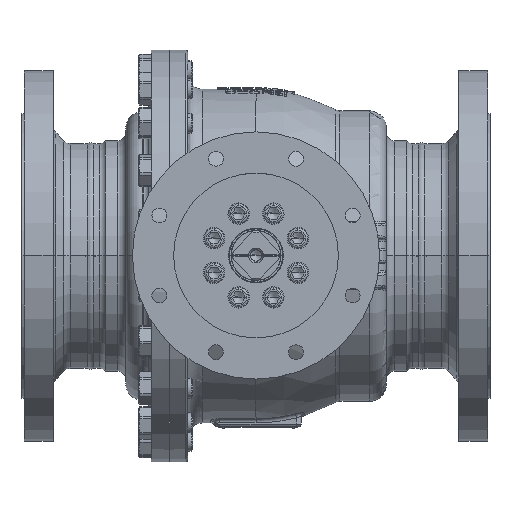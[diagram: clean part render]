
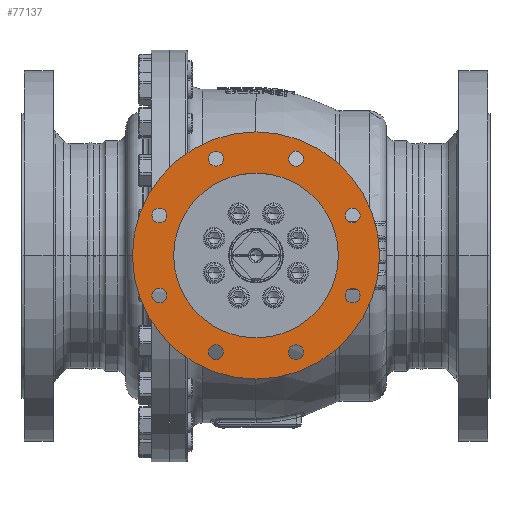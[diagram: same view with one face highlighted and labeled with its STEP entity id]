
A CAD part, top view. The second image highlights one B-rep face of the part: STEP entity #77137.
In plain terms, the highlighted planar face has unit normal (0, 0, 1).
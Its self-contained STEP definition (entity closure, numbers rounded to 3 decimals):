
#8684=CARTESIAN_POINT('',(0.,0.,349.));
#8685=DIRECTION('',(0.,0.,1.));
#8686=DIRECTION('',(1.,0.,0.));
#8687=AXIS2_PLACEMENT_3D('',#8684,#8685,#8686);
#8689=CARTESIAN_POINT('',(0.,0.,349.));
#8690=DIRECTION('',(0.,0.,-1.));
#8691=DIRECTION('',(1.,0.,0.));
#8692=AXIS2_PLACEMENT_3D('',#8689,#8690,#8691);
#8694=CARTESIAN_POINT('',(-117.333,48.601,349.));
#8695=DIRECTION('',(0.,0.,-1.));
#8696=DIRECTION('',(-1.,0.,0.));
#8697=AXIS2_PLACEMENT_3D('',#8694,#8695,#8696);
#8699=CARTESIAN_POINT('',(-117.333,48.601,349.));
#8700=DIRECTION('',(0.,0.,-1.));
#8701=DIRECTION('',(1.,0.,0.));
#8702=AXIS2_PLACEMENT_3D('',#8699,#8700,#8701);
#8704=CARTESIAN_POINT('',(-48.601,117.333,349.));
#8705=DIRECTION('',(0.,0.,-1.));
#8706=DIRECTION('',(-0.707,0.707,0.));
#8707=AXIS2_PLACEMENT_3D('',#8704,#8705,#8706);
#8709=CARTESIAN_POINT('',(-48.601,117.333,349.));
#8710=DIRECTION('',(0.,0.,-1.));
#8711=DIRECTION('',(0.707,-0.707,0.));
#8712=AXIS2_PLACEMENT_3D('',#8709,#8710,#8711);
#8714=CARTESIAN_POINT('',(48.601,117.333,349.));
#8715=DIRECTION('',(0.,0.,-1.));
#8716=DIRECTION('',(0.,1.,0.));
#8717=AXIS2_PLACEMENT_3D('',#8714,#8715,#8716);
#8719=CARTESIAN_POINT('',(48.601,117.333,349.));
#8720=DIRECTION('',(0.,0.,-1.));
#8721=DIRECTION('',(0.,-1.,0.));
#8722=AXIS2_PLACEMENT_3D('',#8719,#8720,#8721);
#8724=CARTESIAN_POINT('',(117.333,48.601,349.));
#8725=DIRECTION('',(0.,0.,-1.));
#8726=DIRECTION('',(0.707,0.707,0.));
#8727=AXIS2_PLACEMENT_3D('',#8724,#8725,#8726);
#8729=CARTESIAN_POINT('',(117.333,48.601,349.));
#8730=DIRECTION('',(0.,0.,-1.));
#8731=DIRECTION('',(-0.707,-0.707,0.));
#8732=AXIS2_PLACEMENT_3D('',#8729,#8730,#8731);
#8734=CARTESIAN_POINT('',(117.333,-48.601,349.));
#8735=DIRECTION('',(0.,0.,-1.));
#8736=DIRECTION('',(1.,0.,0.));
#8737=AXIS2_PLACEMENT_3D('',#8734,#8735,#8736);
#8739=CARTESIAN_POINT('',(117.333,-48.601,349.));
#8740=DIRECTION('',(0.,0.,-1.));
#8741=DIRECTION('',(-1.,0.,0.));
#8742=AXIS2_PLACEMENT_3D('',#8739,#8740,#8741);
#8744=CARTESIAN_POINT('',(48.601,-117.333,349.));
#8745=DIRECTION('',(0.,0.,-1.));
#8746=DIRECTION('',(0.707,-0.707,0.));
#8747=AXIS2_PLACEMENT_3D('',#8744,#8745,#8746);
#8749=CARTESIAN_POINT('',(48.601,-117.333,349.));
#8750=DIRECTION('',(0.,0.,-1.));
#8751=DIRECTION('',(-0.707,0.707,0.));
#8752=AXIS2_PLACEMENT_3D('',#8749,#8750,#8751);
#8754=CARTESIAN_POINT('',(-48.601,-117.333,349.));
#8755=DIRECTION('',(0.,0.,-1.));
#8756=DIRECTION('',(0.,-1.,0.));
#8757=AXIS2_PLACEMENT_3D('',#8754,#8755,#8756);
#8759=CARTESIAN_POINT('',(-48.601,-117.333,349.));
#8760=DIRECTION('',(0.,0.,-1.));
#8761=DIRECTION('',(0.,1.,0.));
#8762=AXIS2_PLACEMENT_3D('',#8759,#8760,#8761);
#8764=CARTESIAN_POINT('',(-117.333,-48.601,349.));
#8765=DIRECTION('',(0.,0.,-1.));
#8766=DIRECTION('',(-0.707,-0.707,0.));
#8767=AXIS2_PLACEMENT_3D('',#8764,#8765,#8766);
#8769=CARTESIAN_POINT('',(-117.333,-48.601,349.));
#8770=DIRECTION('',(0.,0.,-1.));
#8771=DIRECTION('',(0.707,0.707,0.));
#8772=AXIS2_PLACEMENT_3D('',#8769,#8770,#8771);
#8778=CARTESIAN_POINT('',(0.,0.,349.));
#8779=DIRECTION('',(0.,0.,-1.));
#8780=DIRECTION('',(1.,0.,0.));
#8781=AXIS2_PLACEMENT_3D('',#8778,#8779,#8780);
#8787=CARTESIAN_POINT('',(0.,0.,349.));
#8788=DIRECTION('',(0.,0.,1.));
#8789=DIRECTION('',(1.,0.,0.));
#8790=AXIS2_PLACEMENT_3D('',#8787,#8788,#8789);
#61497=CARTESIAN_POINT('',(100.,0.,349.));
#61499=VERTEX_POINT('',#61497);
#61501=CARTESIAN_POINT('',(-100.,0.,349.));
#61503=VERTEX_POINT('',#61501);
#61505=CARTESIAN_POINT('',(150.,0.,349.));
#61506=CARTESIAN_POINT('',(-150.,0.,349.));
#61507=VERTEX_POINT('',#61505);
#61508=VERTEX_POINT('',#61506);
#61641=CARTESIAN_POINT('',(-126.333,48.601,349.));
#61642=CARTESIAN_POINT('',(-108.333,48.601,349.));
#61643=VERTEX_POINT('',#61641);
#61644=VERTEX_POINT('',#61642);
#61645=CARTESIAN_POINT('',(-54.965,123.697,349.));
#61646=CARTESIAN_POINT('',(-42.237,110.969,349.));
#61647=VERTEX_POINT('',#61645);
#61648=VERTEX_POINT('',#61646);
#61649=CARTESIAN_POINT('',(48.601,126.333,349.));
#61650=CARTESIAN_POINT('',(48.601,108.333,349.));
#61651=VERTEX_POINT('',#61649);
#61652=VERTEX_POINT('',#61650);
#61653=CARTESIAN_POINT('',(123.697,54.965,349.));
#61654=CARTESIAN_POINT('',(110.969,42.237,349.));
#61655=VERTEX_POINT('',#61653);
#61656=VERTEX_POINT('',#61654);
#61657=CARTESIAN_POINT('',(126.333,-48.601,349.));
#61658=CARTESIAN_POINT('',(108.333,-48.601,349.));
#61659=VERTEX_POINT('',#61657);
#61660=VERTEX_POINT('',#61658);
#61661=CARTESIAN_POINT('',(54.965,-123.697,349.));
#61662=CARTESIAN_POINT('',(42.237,-110.969,349.));
#61663=VERTEX_POINT('',#61661);
#61664=VERTEX_POINT('',#61662);
#61665=CARTESIAN_POINT('',(-48.601,-126.333,349.));
#61666=CARTESIAN_POINT('',(-48.601,-108.333,349.));
#61667=VERTEX_POINT('',#61665);
#61668=VERTEX_POINT('',#61666);
#61669=CARTESIAN_POINT('',(-123.697,-54.965,349.));
#61670=CARTESIAN_POINT('',(-110.969,-42.237,349.));
#61671=VERTEX_POINT('',#61669);
#61672=VERTEX_POINT('',#61670);
#77074=CARTESIAN_POINT('',(0.,0.,349.));
#77075=DIRECTION('',(0.,0.,1.));
#77076=DIRECTION('',(1.,0.,0.));
#77077=AXIS2_PLACEMENT_3D('',#77074,#77075,#77076);
#77078=PLANE('',#77077);
#77079=ORIENTED_EDGE('',*,*,#77053,.F.);
#77080=ORIENTED_EDGE('',*,*,#77069,.T.);
#77081=EDGE_LOOP('',(#77079,#77080));
#77082=FACE_OUTER_BOUND('',#77081,.F.);
#77084=ORIENTED_EDGE('',*,*,#77083,.F.);
#77086=ORIENTED_EDGE('',*,*,#77085,.T.);
#77087=EDGE_LOOP('',(#77084,#77086));
#77088=FACE_BOUND('',#77087,.F.);
#77090=ORIENTED_EDGE('',*,*,#77089,.F.);
#77092=ORIENTED_EDGE('',*,*,#77091,.F.);
#77093=EDGE_LOOP('',(#77090,#77092));
#77094=FACE_BOUND('',#77093,.F.);
#77096=ORIENTED_EDGE('',*,*,#77095,.F.);
#77098=ORIENTED_EDGE('',*,*,#77097,.F.);
#77099=EDGE_LOOP('',(#77096,#77098));
#77100=FACE_BOUND('',#77099,.F.);
#77102=ORIENTED_EDGE('',*,*,#77101,.F.);
#77104=ORIENTED_EDGE('',*,*,#77103,.F.);
#77105=EDGE_LOOP('',(#77102,#77104));
#77106=FACE_BOUND('',#77105,.F.);
#77108=ORIENTED_EDGE('',*,*,#77107,.F.);
#77110=ORIENTED_EDGE('',*,*,#77109,.F.);
#77111=EDGE_LOOP('',(#77108,#77110));
#77112=FACE_BOUND('',#77111,.F.);
#77114=ORIENTED_EDGE('',*,*,#77113,.F.);
#77116=ORIENTED_EDGE('',*,*,#77115,.F.);
#77117=EDGE_LOOP('',(#77114,#77116));
#77118=FACE_BOUND('',#77117,.F.);
#77120=ORIENTED_EDGE('',*,*,#77119,.F.);
#77122=ORIENTED_EDGE('',*,*,#77121,.F.);
#77123=EDGE_LOOP('',(#77120,#77122));
#77124=FACE_BOUND('',#77123,.F.);
#77126=ORIENTED_EDGE('',*,*,#77125,.F.);
#77128=ORIENTED_EDGE('',*,*,#77127,.F.);
#77129=EDGE_LOOP('',(#77126,#77128));
#77130=FACE_BOUND('',#77129,.F.);
#77132=ORIENTED_EDGE('',*,*,#77131,.F.);
#77134=ORIENTED_EDGE('',*,*,#77133,.F.);
#77135=EDGE_LOOP('',(#77132,#77134));
#77136=FACE_BOUND('',#77135,.F.);
#77137=ADVANCED_FACE('',(#77082,#77088,#77094,#77100,#77106,#77112,#77118,
#77124,#77130,#77136),#77078,.T.);
#8688=CIRCLE('',#8687,150.);
#8693=CIRCLE('',#8692,150.);
#8698=CIRCLE('',#8697,9.);
#8703=CIRCLE('',#8702,9.);
#8708=CIRCLE('',#8707,9.);
#8713=CIRCLE('',#8712,9.);
#8718=CIRCLE('',#8717,9.);
#8723=CIRCLE('',#8722,9.);
#8728=CIRCLE('',#8727,9.);
#8733=CIRCLE('',#8732,9.);
#8738=CIRCLE('',#8737,9.);
#8743=CIRCLE('',#8742,9.);
#8748=CIRCLE('',#8747,9.);
#8753=CIRCLE('',#8752,9.);
#8758=CIRCLE('',#8757,9.);
#8763=CIRCLE('',#8762,9.);
#8768=CIRCLE('',#8767,9.);
#8773=CIRCLE('',#8772,9.);
#8782=CIRCLE('',#8781,100.);
#8791=CIRCLE('',#8790,100.);
#77053=EDGE_CURVE('',#61507,#61508,#8688,.T.);
#77069=EDGE_CURVE('',#61507,#61508,#8693,.T.);
#77083=EDGE_CURVE('',#61499,#61503,#8782,.T.);
#77085=EDGE_CURVE('',#61499,#61503,#8791,.T.);
#77089=EDGE_CURVE('',#61643,#61644,#8698,.T.);
#77091=EDGE_CURVE('',#61644,#61643,#8703,.T.);
#77095=EDGE_CURVE('',#61647,#61648,#8708,.T.);
#77097=EDGE_CURVE('',#61648,#61647,#8713,.T.);
#77101=EDGE_CURVE('',#61651,#61652,#8718,.T.);
#77103=EDGE_CURVE('',#61652,#61651,#8723,.T.);
#77107=EDGE_CURVE('',#61655,#61656,#8728,.T.);
#77109=EDGE_CURVE('',#61656,#61655,#8733,.T.);
#77113=EDGE_CURVE('',#61659,#61660,#8738,.T.);
#77115=EDGE_CURVE('',#61660,#61659,#8743,.T.);
#77119=EDGE_CURVE('',#61663,#61664,#8748,.T.);
#77121=EDGE_CURVE('',#61664,#61663,#8753,.T.);
#77125=EDGE_CURVE('',#61667,#61668,#8758,.T.);
#77127=EDGE_CURVE('',#61668,#61667,#8763,.T.);
#77131=EDGE_CURVE('',#61671,#61672,#8768,.T.);
#77133=EDGE_CURVE('',#61672,#61671,#8773,.T.);
